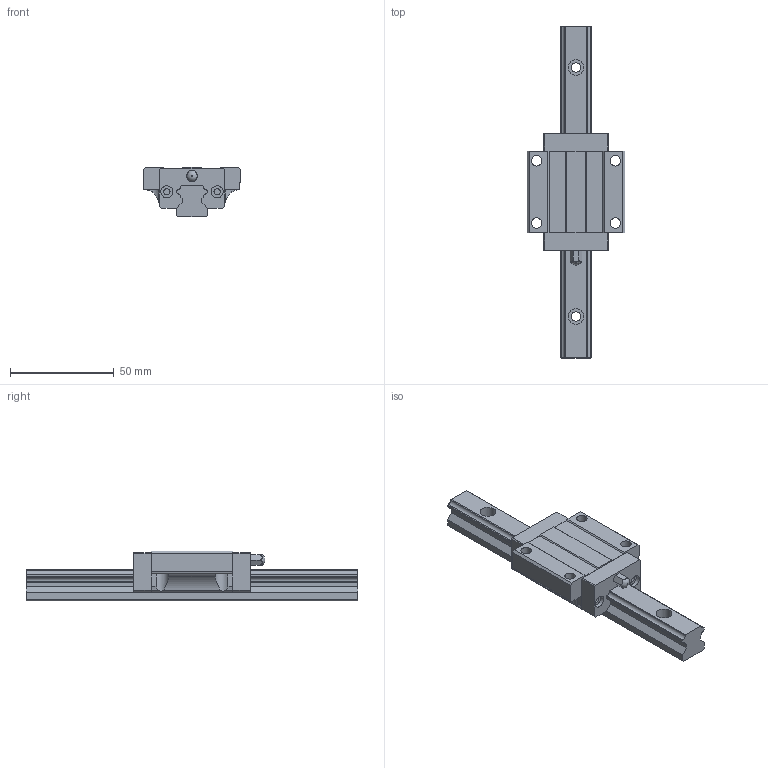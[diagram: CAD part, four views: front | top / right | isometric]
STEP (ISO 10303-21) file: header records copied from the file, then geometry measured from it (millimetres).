
FILE_DESCRIPTION(/* description */ (''),/* implementation_level */ '2;1');
FILE_NAME(/* name */ 'MSA15A',/* time_stamp */ '2003-12-29T11:25:59+08:00',/* author */ (''),/* organization */ (''),/* preprocessor_version */ 'ST-DEVELOPER v9',/* originating_system */ '',/* authorisation */ '');
FILE_SCHEMA (('CONFIG_CONTROL_DESIGN'));
Length unit declared in the file: millimetre
Products named in the file (1): zirc5932mwax
Bounding box: 47 x 160 x 24 mm (x, y, z)
Volume: 62189.2 mm3; surface area: 21299.3 mm2
Topology: 3 solids, 3 shells, 146 faces, 387 edges, 259 vertices
Faces by surface type: plane 103, cylinder 41, sphere 2
Full cylindrical faces by diameter (mm): 3 x4, 4.5 x3, 5 x4, 5.8 x4, 7.5 x3
Entity records: 4540 total; most frequent: CARTESIAN_POINT 803, DIRECTION 740, ORIENTED_EDGE 734, EDGE_CURVE 367, LINE 272, VECTOR 272, VERTEX_POINT 257, AXIS2_PLACEMENT_3D 234
